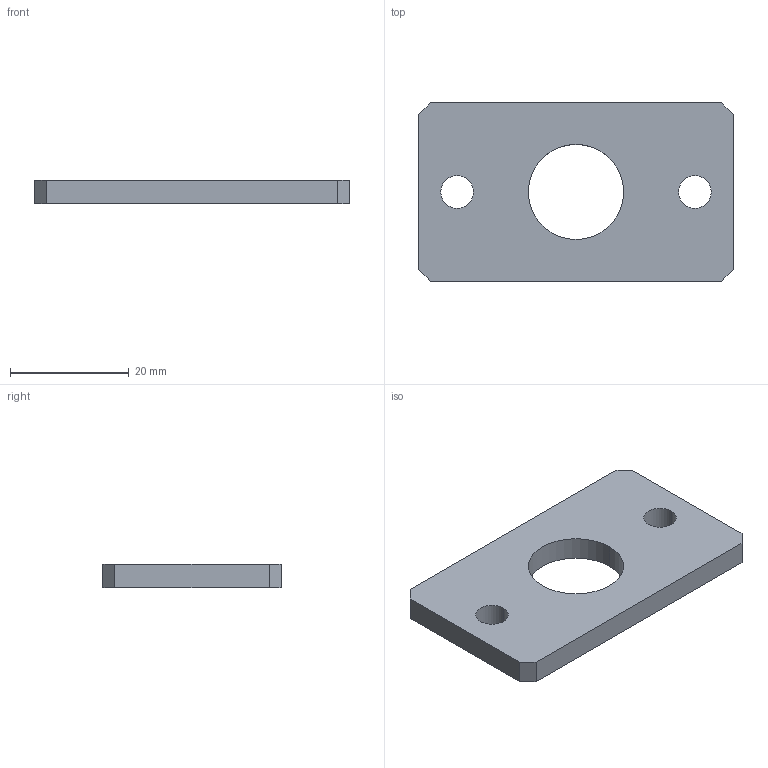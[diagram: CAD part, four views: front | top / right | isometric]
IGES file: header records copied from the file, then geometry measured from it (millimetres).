
Global section: file name: No Iges File Name specified; native system: AutoDesk Inventor R6.0; preprocessor: AutoDesk Inventor Iges Exporter R6.0; author: No Author specified; organization: No Organization specified; date: 20030408.081819; units: millimetre
Bounding box: 53 x 30 x 4 mm (x, y, z)
Volume: 5333.7 mm3; surface area: 3651.4 mm2
Topology: 1 solids, 1 shells, 16 faces, 42 edges, 28 vertices
Faces by surface type: plane 10, revolution 6
